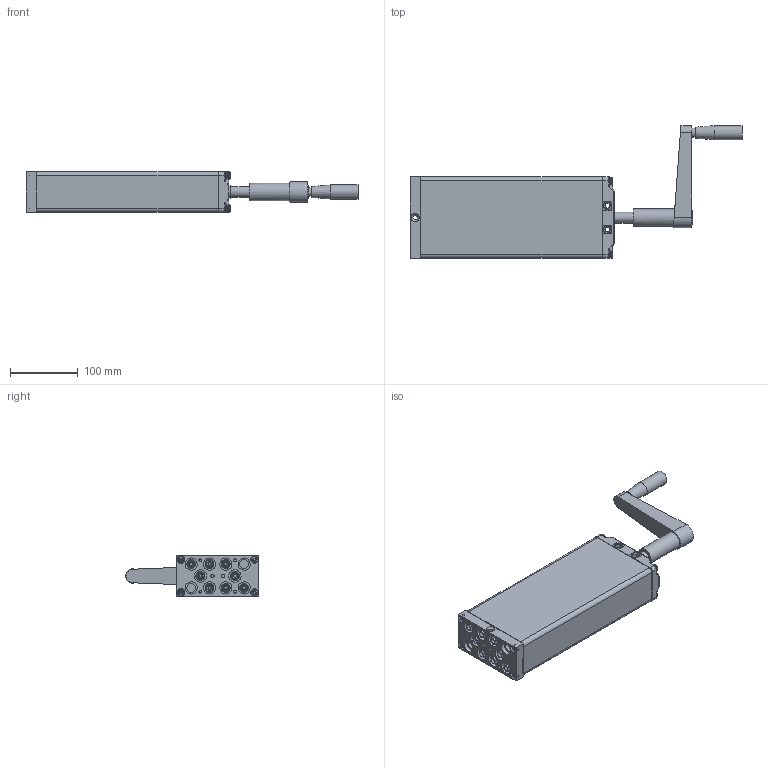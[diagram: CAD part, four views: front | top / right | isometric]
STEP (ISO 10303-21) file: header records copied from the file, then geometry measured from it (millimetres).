
FILE_DESCRIPTION(/* description */ ('Unknown'),/* implementation_level */ '2;1');
FILE_NAME(/* name */ '312.20201 Pumpe PB 8815 W mit Handkurbel',/* time_stamp */ '2016-11-14T17:23:18+01:00',/* author */ ('Unknown'),/* organization */ ('Unknown'),/* preprocessor_version */ 'ST-DEVELOPER v16.7',/* originating_system */ 'DEX',/* authorisation */ $);
FILE_SCHEMA (('AUTOMOTIVE_DESIGN {1 0 10303 214 3 1 1}'));
Products named in the file (23): 102.00201; 115.10031; 125.00061; 115.00008; 142.00021; 125.00021; 113.00005; 128.00001; 125.00052; 126.00013; 125.00053; 127.00014; Handgriff; 142.00013; 125.00141; 115.00140; 126.00006; 122.00040; 119.00041; 126.00036; 142.00057; 142.00083; 142.00017
Assembly tree (40 placements, depth 3):
  102.00201
    115.10031  x8
      125.00061
      115.00008
      142.00021
      125.00021
    113.00005
      128.00001
      125.00052
      126.00013
      125.00053
      127.00014
      Handgriff
    142.00013  x8
    125.00141
    115.00140
      126.00006
      122.00040
    119.00041
    126.00036
    142.00057
    142.00083  x4
    142.00017  x2
Bounding box: 488.75 x 195.5 x 60.3 mm (x, y, z)
Volume: 601676.7 mm3; surface area: 342246.7 mm2
Topology: 50 solids, 50 shells, 2239 faces, 5081 edges, 2978 vertices
Faces by surface type: plane 815, cylinder 510, bspline 380, cone 364, torus 112, sphere 58
Full cylindrical faces by diameter (mm): 3.5 x8, 4 x2, 4.1 x8, 4.134 x4, 4.2 x9, 4.917 x4, 5 x12, 5.8 x4, 6 x2, 6.8 x1, 6.917 x16, 8 x18, 8.5 x4, 9.8 x8, 10 x6, 10.4 x1, 10.5 x4, 12.5 x8, 12.8 x1, 13 x27, 14 x1, 14.4 x8, 16 x2, 17 x1, 17.9 x16, 18 x11, 19 x1, 20.6 x1, 21 x1, 22 x1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
Entity records: 64123 total; most frequent: CARTESIAN_POINT 30513, ORIENTED_EDGE 5372, DIRECTION 4827, EDGE_CURVE 2686, AXIS2_PLACEMENT_3D 1880, VERTEX_POINT 1711, FACE_BOUND 1545, EDGE_LOOP 1542
